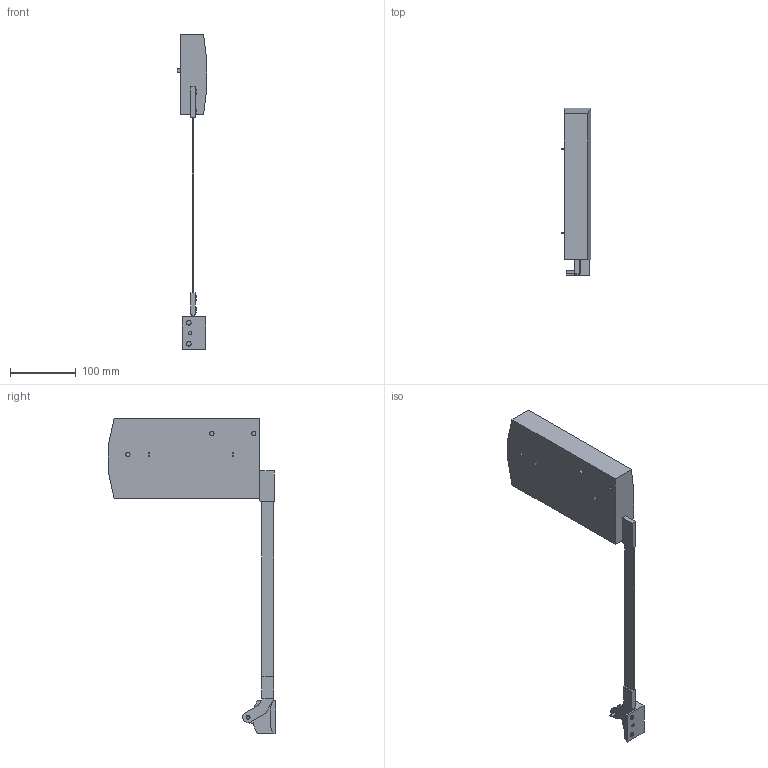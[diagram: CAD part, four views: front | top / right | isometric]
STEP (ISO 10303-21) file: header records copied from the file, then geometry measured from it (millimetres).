
FILE_DESCRIPTION (( 'STEP AP214' ), '1' );
FILE_NAME ('F152145247_KINVARO F20 SET WITH BKT_TYP 7D_L_CLOSED.step', '2021-02-17T08:10:44', ( '' ), ( '' ), 'SwSTEP 2.0', 'SolidWorks 2019', '' );
FILE_SCHEMA (( 'AUTOMOTIVE_DESIGN' ));
Length unit declared in the file: millimetre
Products named in the file (1): F152145247_KINVARO F20 SET WITH BKT_TYP 7D_L_CLOSED
Bounding box: 45.35 x 255.03 x 480.73 mm (x, y, z)
Volume: 1137844.2 mm3; surface area: 108222.5 mm2
Topology: 1 solids, 1 shells, 119 faces, 294 edges, 196 vertices
Faces by surface type: plane 93, cylinder 20, bspline 6
Entity records: 4280 total; most frequent: CARTESIAN_POINT 1408, ORIENTED_EDGE 588, DIRECTION 552, EDGE_CURVE 294, LINE 240, VECTOR 240, VERTEX_POINT 196, AXIS2_PLACEMENT_3D 156
